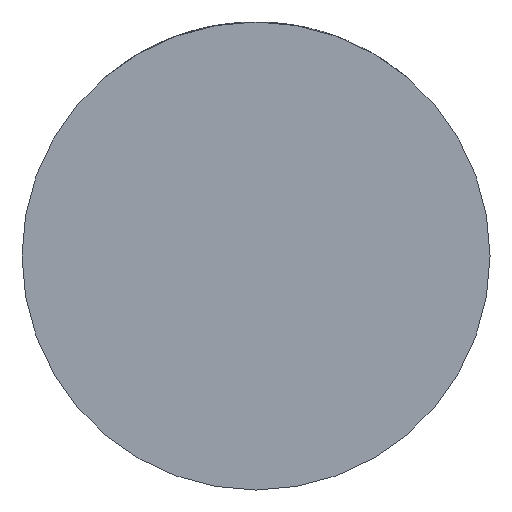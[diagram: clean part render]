
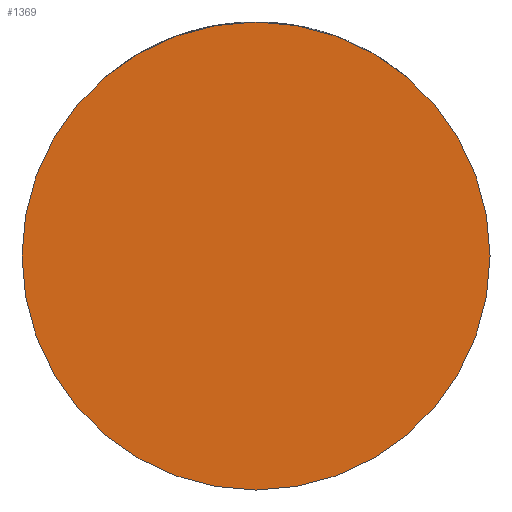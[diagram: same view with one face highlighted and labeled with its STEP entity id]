
A CAD part, front view. The second image highlights one B-rep face of the part: STEP entity #1369.
In plain terms, the highlighted planar face has unit normal (0, -1, 0).
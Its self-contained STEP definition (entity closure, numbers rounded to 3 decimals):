
#14 = EDGE_CURVE ( 'NONE', #2019, #1490, #3443, .T. ) ;
#256 = DIRECTION ( 'NONE',  ( 1., 0., 0. ) ) ;
#802 = EDGE_LOOP ( 'NONE', ( #3470, #1782 ) ) ;
#1086 = DIRECTION ( 'NONE',  ( 0., -1., 0. ) ) ;
#1193 = AXIS2_PLACEMENT_3D ( 'NONE', #3011, #2580, #4400 ) ;
#1334 = CARTESIAN_POINT ( 'NONE',  ( 0., -28., 0. ) ) ;
#1369 = ADVANCED_FACE ( 'NONE', ( #3691 ), #4005, .T. ) ;
#1480 = EDGE_CURVE ( 'NONE', #1490, #2019, #4461, .T. ) ;
#1490 = VERTEX_POINT ( 'NONE', #2461 ) ;
#1782 = ORIENTED_EDGE ( 'NONE', *, *, #1480, .T. ) ;
#1949 = CARTESIAN_POINT ( 'NONE',  ( 0., -28., 0. ) ) ;
#1970 = DIRECTION ( 'NONE',  ( 0., -1., 0. ) ) ;
#2019 = VERTEX_POINT ( 'NONE', #4140 ) ;
#2206 = AXIS2_PLACEMENT_3D ( 'NONE', #1334, #1086, #4279 ) ;
#2461 = CARTESIAN_POINT ( 'NONE',  ( 32., -28., 0. ) ) ;
#2580 = DIRECTION ( 'NONE',  ( 0., -1., 0. ) ) ;
#2882 = AXIS2_PLACEMENT_3D ( 'NONE', #1949, #1970, #256 ) ;
#3011 = CARTESIAN_POINT ( 'NONE',  ( 0., -28., 0. ) ) ;
#3443 = CIRCLE ( 'NONE', #2882, 32. ) ;
#3470 = ORIENTED_EDGE ( 'NONE', *, *, #14, .T. ) ;
#3691 = FACE_OUTER_BOUND ( 'NONE', #802, .T. ) ;
#4005 = PLANE ( 'NONE',  #1193 ) ;
#4140 = CARTESIAN_POINT ( 'NONE',  ( -32., -28., 0. ) ) ;
#4279 = DIRECTION ( 'NONE',  ( 1., 0., 0. ) ) ;
#4400 = DIRECTION ( 'NONE',  ( 1., 0., 0. ) ) ;
#4461 = CIRCLE ( 'NONE', #2206, 32. ) ;
